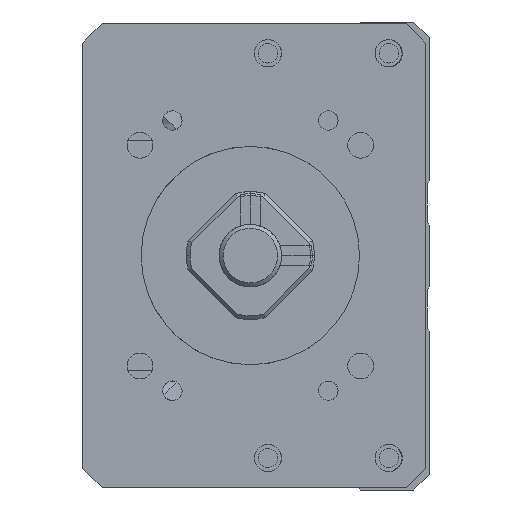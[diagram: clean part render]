
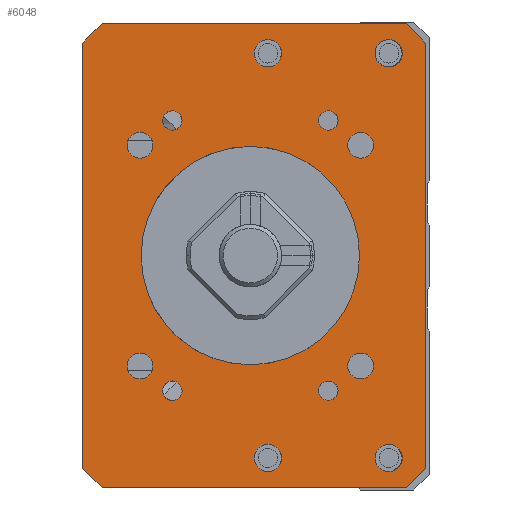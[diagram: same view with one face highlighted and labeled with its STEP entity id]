
A CAD part, left-side view. The second image highlights one B-rep face of the part: STEP entity #6048.
In plain terms, the highlighted planar face has unit normal (-1, 0, 0).
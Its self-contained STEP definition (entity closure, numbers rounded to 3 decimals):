
#4378=LINE('',#18546,#5205);
#4380=LINE('',#18570,#5207);
#4381=LINE('',#18572,#5208);
#4382=LINE('',#18574,#5209);
#4383=LINE('',#18576,#5210);
#4384=LINE('',#18578,#5211);
#4385=LINE('',#18580,#5212);
#4386=LINE('',#18582,#5213);
#5205=VECTOR('',#15492,1.);
#5207=VECTOR('',#15516,1.);
#5208=VECTOR('',#15517,1.);
#5209=VECTOR('',#15518,1.);
#5210=VECTOR('',#15519,1.);
#5211=VECTOR('',#15520,1.);
#5212=VECTOR('',#15521,1.);
#5213=VECTOR('',#15522,1.);
#6048=ADVANCED_FACE('',(#7101,#7102,#7103,#7104,#7105,#7106,#7107,#7108,
#7109,#7110,#7111,#7112,#7113,#7114),#6710,.F.);
#6710=PLANE('',#14400);
#7101=FACE_BOUND('',#7614,.T.);
#7102=FACE_BOUND('',#7615,.T.);
#7103=FACE_BOUND('',#7616,.T.);
#7104=FACE_BOUND('',#7617,.T.);
#7105=FACE_BOUND('',#7618,.T.);
#7106=FACE_BOUND('',#7619,.T.);
#7107=FACE_BOUND('',#7620,.T.);
#7108=FACE_BOUND('',#7621,.T.);
#7109=FACE_BOUND('',#7622,.T.);
#7110=FACE_BOUND('',#7623,.T.);
#7111=FACE_BOUND('',#7624,.T.);
#7112=FACE_BOUND('',#7625,.T.);
#7113=FACE_BOUND('',#7626,.T.);
#7114=FACE_BOUND('',#7627,.T.);
#7614=EDGE_LOOP('',(#8589));
#7615=EDGE_LOOP('',(#8590));
#7616=EDGE_LOOP('',(#8591));
#7617=EDGE_LOOP('',(#8592));
#7618=EDGE_LOOP('',(#8593));
#7619=EDGE_LOOP('',(#8594));
#7620=EDGE_LOOP('',(#8595));
#7621=EDGE_LOOP('',(#8596));
#7622=EDGE_LOOP('',(#8597));
#7623=EDGE_LOOP('',(#8598,#8599,#8600,#8601,#8602,#8603,#8604,#8605));
#7624=EDGE_LOOP('',(#8606));
#7625=EDGE_LOOP('',(#8607));
#7626=EDGE_LOOP('',(#8608));
#7627=EDGE_LOOP('',(#8609));
#8589=ORIENTED_EDGE('',*,*,#12545,.F.);
#8590=ORIENTED_EDGE('',*,*,#12546,.F.);
#8591=ORIENTED_EDGE('',*,*,#12547,.F.);
#8592=ORIENTED_EDGE('',*,*,#12548,.F.);
#8593=ORIENTED_EDGE('',*,*,#12549,.F.);
#8594=ORIENTED_EDGE('',*,*,#12550,.T.);
#8595=ORIENTED_EDGE('',*,*,#12551,.F.);
#8596=ORIENTED_EDGE('',*,*,#12552,.F.);
#8597=ORIENTED_EDGE('',*,*,#12553,.F.);
#8598=ORIENTED_EDGE('',*,*,#12542,.T.);
#8599=ORIENTED_EDGE('',*,*,#12554,.T.);
#8600=ORIENTED_EDGE('',*,*,#12555,.F.);
#8601=ORIENTED_EDGE('',*,*,#12556,.T.);
#8602=ORIENTED_EDGE('',*,*,#12557,.F.);
#8603=ORIENTED_EDGE('',*,*,#12558,.T.);
#8604=ORIENTED_EDGE('',*,*,#12559,.T.);
#8605=ORIENTED_EDGE('',*,*,#12560,.T.);
#8606=ORIENTED_EDGE('',*,*,#12561,.F.);
#8607=ORIENTED_EDGE('',*,*,#12562,.F.);
#8608=ORIENTED_EDGE('',*,*,#12563,.F.);
#8609=ORIENTED_EDGE('',*,*,#12522,.F.);
#11483=VERTEX_POINT('',#18485);
#11503=VERTEX_POINT('',#18545);
#11504=VERTEX_POINT('',#18547);
#11506=VERTEX_POINT('',#18553);
#11507=VERTEX_POINT('',#18555);
#11508=VERTEX_POINT('',#18557);
#11509=VERTEX_POINT('',#18559);
#11510=VERTEX_POINT('',#18561);
#11511=VERTEX_POINT('',#18563);
#11512=VERTEX_POINT('',#18565);
#11513=VERTEX_POINT('',#18567);
#11514=VERTEX_POINT('',#18569);
#11515=VERTEX_POINT('',#18571);
#11516=VERTEX_POINT('',#18573);
#11517=VERTEX_POINT('',#18575);
#11518=VERTEX_POINT('',#18577);
#11519=VERTEX_POINT('',#18579);
#11520=VERTEX_POINT('',#18581);
#11521=VERTEX_POINT('',#18584);
#11522=VERTEX_POINT('',#18586);
#11523=VERTEX_POINT('',#18588);
#12522=EDGE_CURVE('',#11483,#11483,#13981,.T.);
#12542=EDGE_CURVE('',#11504,#11503,#4378,.T.);
#12545=EDGE_CURVE('',#11506,#11506,#13990,.T.);
#12546=EDGE_CURVE('',#11507,#11507,#13991,.T.);
#12547=EDGE_CURVE('',#11508,#11508,#13992,.T.);
#12548=EDGE_CURVE('',#11509,#11509,#13993,.T.);
#12549=EDGE_CURVE('',#11510,#11510,#13994,.T.);
#12550=EDGE_CURVE('',#11511,#11511,#13995,.T.);
#12551=EDGE_CURVE('',#11512,#11512,#13996,.T.);
#12552=EDGE_CURVE('',#11513,#11513,#13997,.T.);
#12553=EDGE_CURVE('',#11514,#11514,#13998,.T.);
#12554=EDGE_CURVE('',#11503,#11515,#4380,.T.);
#12555=EDGE_CURVE('',#11516,#11515,#4381,.T.);
#12556=EDGE_CURVE('',#11516,#11517,#4382,.T.);
#12557=EDGE_CURVE('',#11518,#11517,#4383,.T.);
#12558=EDGE_CURVE('',#11518,#11519,#4384,.T.);
#12559=EDGE_CURVE('',#11519,#11520,#4385,.T.);
#12560=EDGE_CURVE('',#11520,#11504,#4386,.T.);
#12561=EDGE_CURVE('',#11521,#11521,#13999,.T.);
#12562=EDGE_CURVE('',#11522,#11522,#14000,.T.);
#12563=EDGE_CURVE('',#11523,#11523,#14001,.T.);
#13981=CIRCLE('',#14377,14.);
#13990=CIRCLE('',#14388,1.65);
#13991=CIRCLE('',#14389,1.65);
#13992=CIRCLE('',#14390,1.65);
#13993=CIRCLE('',#14391,1.65);
#13994=CIRCLE('',#14392,1.25);
#13995=CIRCLE('',#14393,1.75);
#13996=CIRCLE('',#14394,1.25);
#13997=CIRCLE('',#14395,1.75);
#13998=CIRCLE('',#14396,1.25);
#13999=CIRCLE('',#14397,1.75);
#14000=CIRCLE('',#14398,1.75);
#14001=CIRCLE('',#14399,1.25);
#14377=AXIS2_PLACEMENT_3D('',#18484,#15466,#15467);
#14388=AXIS2_PLACEMENT_3D('',#18552,#15498,#15499);
#14389=AXIS2_PLACEMENT_3D('',#18554,#15500,#15501);
#14390=AXIS2_PLACEMENT_3D('',#18556,#15502,#15503);
#14391=AXIS2_PLACEMENT_3D('',#18558,#15504,#15505);
#14392=AXIS2_PLACEMENT_3D('',#18560,#15506,#15507);
#14393=AXIS2_PLACEMENT_3D('',#18562,#15508,#15509);
#14394=AXIS2_PLACEMENT_3D('',#18564,#15510,#15511);
#14395=AXIS2_PLACEMENT_3D('',#18566,#15512,#15513);
#14396=AXIS2_PLACEMENT_3D('',#18568,#15514,#15515);
#14397=AXIS2_PLACEMENT_3D('',#18583,#15523,#15524);
#14398=AXIS2_PLACEMENT_3D('',#18585,#15525,#15526);
#14399=AXIS2_PLACEMENT_3D('',#18587,#15527,#15528);
#14400=AXIS2_PLACEMENT_3D('',#18589,#15529,#15530);
#15466=DIRECTION('',(-1.,0.,0.));
#15467=DIRECTION('',(0.,1.,0.));
#15492=DIRECTION('',(0.,0.,-1.));
#15498=DIRECTION('',(-1.,0.,0.));
#15499=DIRECTION('',(0.,0.,1.));
#15500=DIRECTION('',(-1.,0.,0.));
#15501=DIRECTION('',(0.,0.,1.));
#15502=DIRECTION('',(-1.,0.,0.));
#15503=DIRECTION('',(0.,0.,1.));
#15504=DIRECTION('',(-1.,0.,0.));
#15505=DIRECTION('',(0.,0.,1.));
#15506=DIRECTION('',(-1.,0.,0.));
#15507=DIRECTION('',(0.,1.,0.));
#15508=DIRECTION('',(1.,0.,0.));
#15509=DIRECTION('',(0.,0.,1.));
#15510=DIRECTION('',(-1.,0.,0.));
#15511=DIRECTION('',(0.,1.,0.));
#15512=DIRECTION('',(-1.,0.,0.));
#15513=DIRECTION('',(0.,0.,1.));
#15514=DIRECTION('',(-1.,0.,0.));
#15515=DIRECTION('',(0.,1.,0.));
#15516=DIRECTION('',(0.,-0.707,-0.707));
#15517=DIRECTION('',(0.,1.,0.));
#15518=DIRECTION('',(0.,-0.707,0.707));
#15519=DIRECTION('',(0.,0.,-1.));
#15520=DIRECTION('',(0.,0.707,0.707));
#15521=DIRECTION('',(0.,1.,0.));
#15522=DIRECTION('',(0.,0.707,-0.707));
#15523=DIRECTION('',(-1.,0.,0.));
#15524=DIRECTION('',(0.,0.,1.));
#15525=DIRECTION('',(-1.,0.,0.));
#15526=DIRECTION('',(0.,0.,1.));
#15527=DIRECTION('',(-1.,0.,0.));
#15528=DIRECTION('',(0.,1.,0.));
#15529=DIRECTION('',(1.,0.,0.));
#15530=DIRECTION('',(0.,1.,0.));
#18484=CARTESIAN_POINT('',(-211.,0.,0.));
#18485=CARTESIAN_POINT('',(-211.,14.,0.));
#18545=CARTESIAN_POINT('',(-211.,21.499,-27.25));
#18546=CARTESIAN_POINT('',(-211.,21.499,29.75));
#18547=CARTESIAN_POINT('',(-211.,21.499,27.25));
#18552=CARTESIAN_POINT('',(-211.,14.142,14.142));
#18553=CARTESIAN_POINT('',(-211.,14.142,15.792));
#18554=CARTESIAN_POINT('',(-211.,-14.142,14.142));
#18555=CARTESIAN_POINT('',(-211.,-14.142,15.792));
#18556=CARTESIAN_POINT('',(-211.,14.142,-14.142));
#18557=CARTESIAN_POINT('',(-211.,14.142,-12.492));
#18558=CARTESIAN_POINT('',(-211.,-14.142,-14.142));
#18559=CARTESIAN_POINT('',(-211.,-14.142,-12.492));
#18560=CARTESIAN_POINT('',(-211.,-10.,-17.321));
#18561=CARTESIAN_POINT('',(-211.,-8.75,-17.321));
#18562=CARTESIAN_POINT('',(-211.,-2.25,-25.936));
#18563=CARTESIAN_POINT('',(-211.,-2.25,-24.186));
#18564=CARTESIAN_POINT('',(-211.,10.,17.321));
#18565=CARTESIAN_POINT('',(-211.,11.25,17.321));
#18566=CARTESIAN_POINT('',(-211.,-2.25,25.936));
#18567=CARTESIAN_POINT('',(-211.,-2.25,27.686));
#18568=CARTESIAN_POINT('',(-211.,10.,-17.321));
#18569=CARTESIAN_POINT('',(-211.,11.25,-17.321));
#18570=CARTESIAN_POINT('',(-211.,18.999,-29.75));
#18571=CARTESIAN_POINT('',(-211.,18.999,-29.75));
#18572=CARTESIAN_POINT('',(-211.,-22.501,-29.75));
#18573=CARTESIAN_POINT('',(-211.,-20.001,-29.75));
#18574=CARTESIAN_POINT('',(-211.,-22.501,-27.25));
#18575=CARTESIAN_POINT('',(-211.,-22.501,-27.25));
#18576=CARTESIAN_POINT('',(-211.,-22.501,29.75));
#18577=CARTESIAN_POINT('',(-211.,-22.501,27.25));
#18578=CARTESIAN_POINT('',(-211.,-22.501,27.25));
#18579=CARTESIAN_POINT('',(-211.,-20.001,29.75));
#18580=CARTESIAN_POINT('',(-211.,-22.501,29.75));
#18581=CARTESIAN_POINT('',(-211.,18.999,29.75));
#18582=CARTESIAN_POINT('',(-211.,18.999,29.75));
#18583=CARTESIAN_POINT('',(-211.,-17.75,25.936));
#18584=CARTESIAN_POINT('',(-211.,-17.75,27.686));
#18585=CARTESIAN_POINT('',(-211.,-17.75,-25.936));
#18586=CARTESIAN_POINT('',(-211.,-17.75,-24.186));
#18587=CARTESIAN_POINT('',(-211.,-10.,17.321));
#18588=CARTESIAN_POINT('',(-211.,-8.75,17.321));
#18589=CARTESIAN_POINT('',(-211.,-22.501,29.75));
